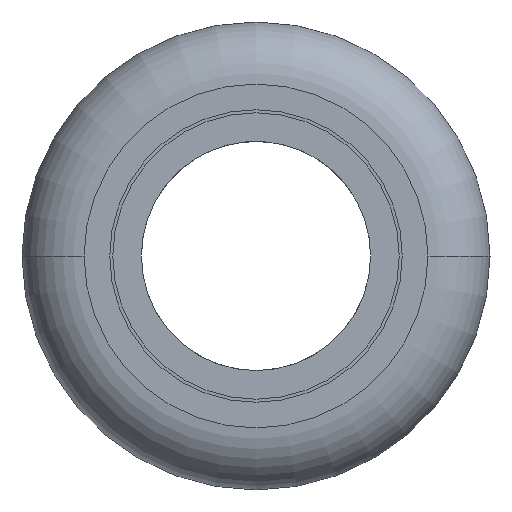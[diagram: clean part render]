
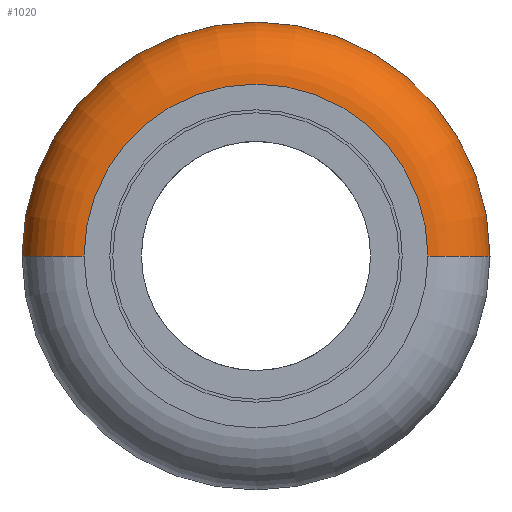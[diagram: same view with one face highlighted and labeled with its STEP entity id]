
A CAD part, front view. The second image highlights one B-rep face of the part: STEP entity #1020.
In plain terms, the highlighted toroidal (fillet/blend) face has major radius 7.2 mm and minor radius 2.6 mm.
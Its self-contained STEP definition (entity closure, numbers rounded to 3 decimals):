
#530=CARTESIAN_POINT('',(-98.071,56.24,0.));
#540=DIRECTION('',(0.,1.,0.));
#550=DIRECTION('',(1.,0.,0.));
#560=AXIS2_PLACEMENT_3D('',#530,#540,#550);
#570=CIRCLE('',#560,7.2);
#580=CARTESIAN_POINT('',(-90.871,56.24,0.));
#590=VERTEX_POINT('',#580);
#600=CARTESIAN_POINT('',(-105.271,56.24,0.));
#610=VERTEX_POINT('',#600);
#640=EDGE_CURVE('',#610,#590,#570,.T.);
#690=CARTESIAN_POINT('',(-98.071,53.64,0.));
#700=DIRECTION('',(0.,1.,0.));
#710=DIRECTION('',(1.,0.,0.));
#720=AXIS2_PLACEMENT_3D('',#690,#700,#710);
#730=TOROIDAL_SURFACE('',#720,7.2,2.6);
#740=CARTESIAN_POINT('',(-105.271,53.64,0.));
#750=DIRECTION('',(0.,0.,1.));
#760=DIRECTION('',(-1.,0.,0.));
#770=AXIS2_PLACEMENT_3D('',#740,#750,#760);
#780=CIRCLE('',#770,2.6);
#790=CARTESIAN_POINT('',(-107.871,53.64,0.));
#800=VERTEX_POINT('',#790);
#810=EDGE_CURVE('',#610,#800,#780,.T.);
#820=ORIENTED_EDGE('',*,*,#810,.T.);
#830=ORIENTED_EDGE('',*,*,#640,.F.);
#840=CARTESIAN_POINT('',(-90.871,53.64,0.));
#850=DIRECTION('',(0.,0.,-1.));
#860=DIRECTION('',(1.,0.,0.));
#870=AXIS2_PLACEMENT_3D('',#840,#850,#860);
#880=CIRCLE('',#870,2.6);
#890=CARTESIAN_POINT('',(-88.271,53.64,0.));
#900=VERTEX_POINT('',#890);
#910=EDGE_CURVE('',#590,#900,#880,.T.);
#920=ORIENTED_EDGE('',*,*,#910,.F.);
#930=CARTESIAN_POINT('',(-98.071,53.64,0.));
#940=DIRECTION('',(0.,1.,0.));
#950=DIRECTION('',(1.,0.,0.));
#960=AXIS2_PLACEMENT_3D('',#930,#940,#950);
#970=CIRCLE('',#960,9.8);
#980=EDGE_CURVE('',#800,#900,#970,.T.);
#990=ORIENTED_EDGE('',*,*,#980,.T.);
#1000=EDGE_LOOP('',(#990,#920,#830,#820));
#1010=FACE_OUTER_BOUND('',#1000,.T.);
#1020=ADVANCED_FACE('',(#1010),#730,.T.);
